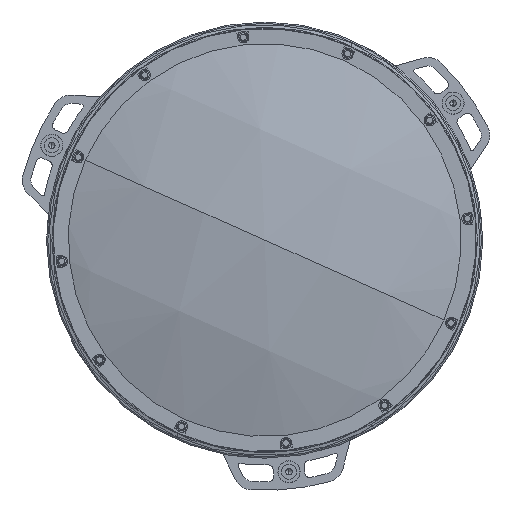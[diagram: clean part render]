
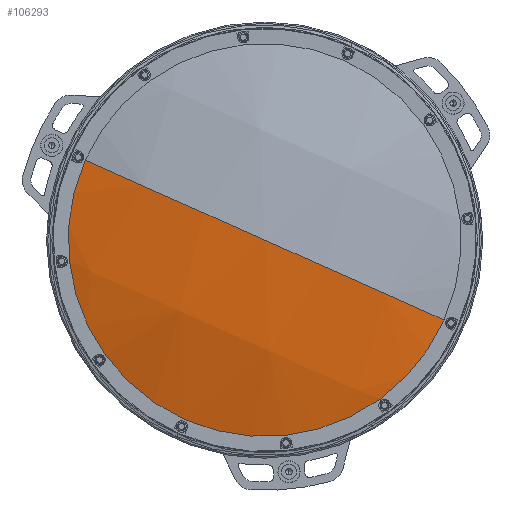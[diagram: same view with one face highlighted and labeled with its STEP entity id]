
A CAD part, top view. The second image highlights one B-rep face of the part: STEP entity #106293.
In plain terms, the highlighted spherical face has radius 998.44 mm.
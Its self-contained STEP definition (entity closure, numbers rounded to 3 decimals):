
#1067 = DIRECTION ( 'NONE',  ( -0.914, 0.407, 0. ) ) ;
#4368 = EDGE_LOOP ( 'NONE', ( #66495, #13666, #40409 ) ) ;
#10163 = CARTESIAN_POINT ( 'NONE',  ( 0., 0., 68. ) ) ;
#13666 = ORIENTED_EDGE ( 'NONE', *, *, #143258, .T. ) ;
#13921 = DIRECTION ( 'NONE',  ( -0.407, -0.914, 0. ) ) ;
#16020 = DIRECTION ( 'NONE',  ( -0.914, 0.407, 0. ) ) ;
#19751 = AXIS2_PLACEMENT_3D ( 'NONE', #67556, #22186, #1067 ) ;
#21415 = DIRECTION ( 'NONE',  ( 0.407, 0.914, 0. ) ) ;
#22186 = DIRECTION ( 'NONE',  ( -0.407, -0.914, 0. ) ) ;
#35807 = AXIS2_PLACEMENT_3D ( 'NONE', #75852, #102277, #21415 ) ;
#36609 = CIRCLE ( 'NONE', #89761, 998.44 ) ;
#38537 = CARTESIAN_POINT ( 'NONE',  ( -285.026, 126.902, 18. ) ) ;
#40409 = ORIENTED_EDGE ( 'NONE', *, *, #104372, .F. ) ;
#42615 = AXIS2_PLACEMENT_3D ( 'NONE', #116672, #13921, #103843 ) ;
#44872 = SPHERICAL_SURFACE ( 'NONE', #19751, 998.44 ) ;
#45612 = FACE_OUTER_BOUND ( 'NONE', #4368, .T. ) ;
#51510 = VERTEX_POINT ( 'NONE', #10163 ) ;
#58830 = VERTEX_POINT ( 'NONE', #38537 ) ;
#66495 = ORIENTED_EDGE ( 'NONE', *, *, #90697, .T. ) ;
#67556 = CARTESIAN_POINT ( 'NONE',  ( 0., 0., -930.44 ) ) ;
#69591 = CIRCLE ( 'NONE', #35807, 312. ) ;
#75852 = CARTESIAN_POINT ( 'NONE',  ( 0., 0., 18. ) ) ;
#89761 = AXIS2_PLACEMENT_3D ( 'NONE', #110956, #135090, #16020 ) ;
#90697 = EDGE_CURVE ( 'NONE', #58830, #134884, #69591, .T. ) ;
#102277 = DIRECTION ( 'NONE',  ( 0., 0., 1. ) ) ;
#103843 = DIRECTION ( 'NONE',  ( 0.914, -0.407, 0. ) ) ;
#104372 = EDGE_CURVE ( 'NONE', #58830, #51510, #36609, .T. ) ;
#106293 = ADVANCED_FACE ( 'NONE', ( #45612 ), #44872, .T. ) ;
#110956 = CARTESIAN_POINT ( 'NONE',  ( 0., 0., -930.44 ) ) ;
#116672 = CARTESIAN_POINT ( 'NONE',  ( 0., 0., -930.44 ) ) ;
#127098 = CIRCLE ( 'NONE', #42615, 998.44 ) ;
#134884 = VERTEX_POINT ( 'NONE', #135869 ) ;
#135090 = DIRECTION ( 'NONE',  ( 0.407, 0.914, 0. ) ) ;
#135869 = CARTESIAN_POINT ( 'NONE',  ( 285.026, -126.902, 18. ) ) ;
#143258 = EDGE_CURVE ( 'NONE', #134884, #51510, #127098, .T. ) ;
